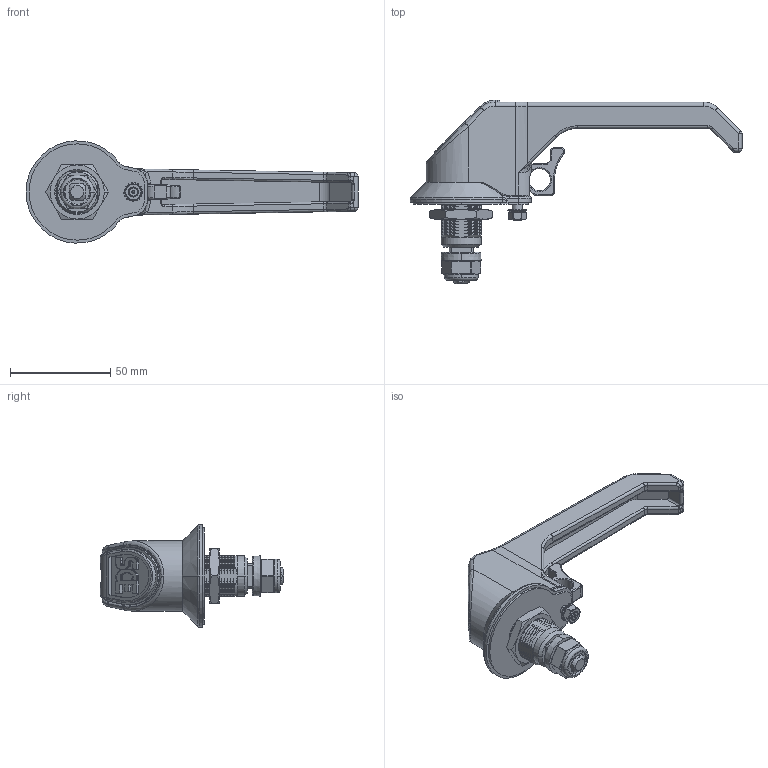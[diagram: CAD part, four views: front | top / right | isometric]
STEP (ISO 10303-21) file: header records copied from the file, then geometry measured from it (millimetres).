
FILE_DESCRIPTION((''),'2;1');
FILE_NAME('126935_ASM','2023-12-20T16:17:51',('chads'),('SAGINAW CONTROL & ENGINEERING'),'CREO PARAMETRIC BY PTC INC, 2021284','CREO PARAMETRIC BY PTC INC, 2021284','');
FILE_SCHEMA(('AUTOMOTIVE_DESIGN { 1 0 10303 214 1 1 1 1 }'));
Length unit declared in the file: inch
Products named in the file (23): 126935-HANDLE; 126935-HANDLE-THREADED-INSERT; 126935-HANDLE_ASM; 126935-INSERT-PLUG; 126935-INSERT-WASHER; 126935-COINPROOF-INSERT; 126935-M4-SCREW; 126935-TORSION-SPRING; 126935-INSERT-CAM; 126935-M6-SCREW; 126935-PADLOCK-PUSHBUTTON; 126935-COMPRESSION-SPRING; 126935-O-RING; 126935-BASE; 126935-BASE-M5-STUD; 126935-BASE_ASM; 126935-SWING-LIMIT-INSERT; 126935-GASKET; 126935-M22-EARTHNUT; 126935-CAM-ADAPTER; 126935-M10-LOCK-NUT; 126935-M5-KEPS-NUT; 126935_ASM
Assembly tree (23 placements, depth 3):
  126935_ASM
    126935-HANDLE_ASM
      126935-HANDLE
      126935-HANDLE-THREADED-INSERT
    126935-INSERT-PLUG
    126935-INSERT-WASHER
    126935-COINPROOF-INSERT
    126935-M4-SCREW  x2
    126935-TORSION-SPRING
    126935-INSERT-CAM
    126935-M6-SCREW
    126935-PADLOCK-PUSHBUTTON
    126935-COMPRESSION-SPRING
    126935-O-RING
    126935-BASE_ASM
      126935-BASE
      126935-BASE-M5-STUD
    126935-SWING-LIMIT-INSERT
    126935-GASKET
    126935-M22-EARTHNUT
    126935-CAM-ADAPTER
    126935-M10-LOCK-NUT
    126935-M5-KEPS-NUT
Bounding box: 165.5 x 91.44 x 50.92 mm (x, y, z)
Volume: 86881.3 mm3; surface area: 56284.9 mm2
Topology: 21 solids, 21 shells, 2120 faces, 5512 edges, 3389 vertices
Faces by surface type: cylinder 693, cone 599, plane 500, bspline 184, torus 95, sphere 48, extrusion 1
Entity records: 91060 total; most frequent: CARTESIAN_POINT 41809, ORIENTED_EDGE 10288, DIRECTION 9276, EDGE_CURVE 5144, AXIS2_PLACEMENT_3D 3580, VERTEX_POINT 3227, VECTOR 2116, LINE 2115
